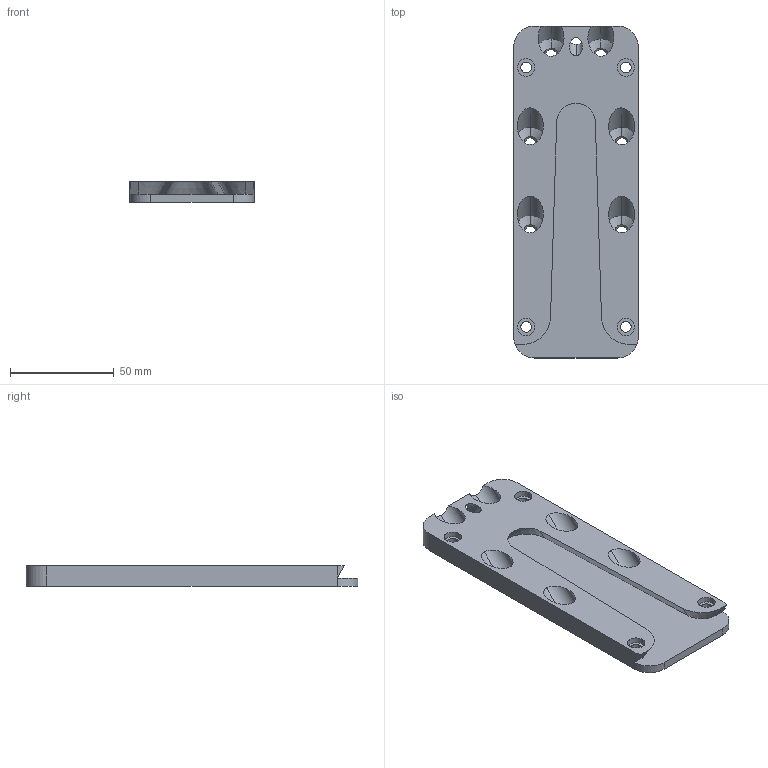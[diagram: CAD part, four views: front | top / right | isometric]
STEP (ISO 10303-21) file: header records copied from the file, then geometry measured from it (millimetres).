
FILE_DESCRIPTION (( 'STEP AP203' ), '1' );
FILE_NAME ('UV_60_NT_Holz.STEP', '2019-11-14T13:34:52', ( '' ), ( '' ), 'SwSTEP 2.0', 'SolidWorks 2013', '' );
FILE_SCHEMA (( 'CONFIG_CONTROL_DESIGN' ));
Length unit declared in the file: millimetre
Products named in the file (1): UV_60_NT_Holz
Bounding box: 60 x 160 x 10 mm (x, y, z)
Volume: 65656.1 mm3; surface area: 27857.3 mm2
Topology: 1 solids, 1 shells, 82 faces, 205 edges, 126 vertices
Faces by surface type: cylinder 50, cone 17, plane 15
Entity records: 2550 total; most frequent: CARTESIAN_POINT 522, DIRECTION 411, ORIENTED_EDGE 410, EDGE_CURVE 205, AXIS2_PLACEMENT_3D 159, VERTEX_POINT 126, EDGE_LOOP 105, VECTOR 93
